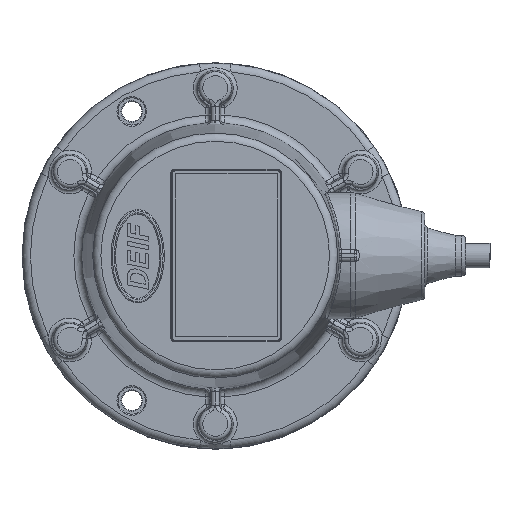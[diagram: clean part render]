
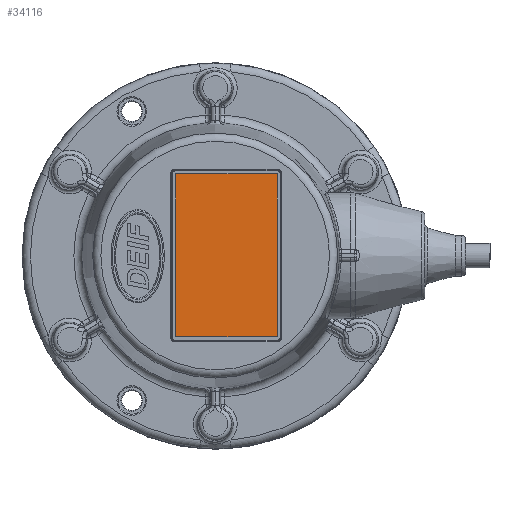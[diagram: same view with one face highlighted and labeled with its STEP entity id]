
A CAD part, top view. The second image highlights one B-rep face of the part: STEP entity #34116.
In plain terms, the highlighted planar face has unit normal (0, 0, 1) as drawn and (0, 1, 0) by its records, which use the part's own axes.
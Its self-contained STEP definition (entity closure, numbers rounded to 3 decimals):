
#4615=PLANE('',#36952);
#6013=FACE_OUTER_BOUND('',#8173,.T.);
#8173=EDGE_LOOP('',(#29168,#29169,#29170,#29171));
#10455=LINE('',#63080,#12439);
#10458=LINE('',#63086,#12442);
#10461=LINE('',#63092,#12445);
#10464=LINE('',#63096,#12448);
#12439=VECTOR('',#42355,10.);
#12442=VECTOR('',#42360,10.);
#12445=VECTOR('',#42365,10.);
#12448=VECTOR('',#42370,10.);
#15990=VERTEX_POINT('',#63077);
#15991=VERTEX_POINT('',#63079);
#15993=VERTEX_POINT('',#63085);
#15995=VERTEX_POINT('',#63091);
#20551=EDGE_CURVE('',#15991,#15990,#10455,.T.);
#20554=EDGE_CURVE('',#15993,#15991,#10458,.T.);
#20557=EDGE_CURVE('',#15995,#15993,#10461,.T.);
#20560=EDGE_CURVE('',#15990,#15995,#10464,.T.);
#29168=ORIENTED_EDGE('',*,*,#20560,.T.);
#29169=ORIENTED_EDGE('',*,*,#20557,.T.);
#29170=ORIENTED_EDGE('',*,*,#20554,.T.);
#29171=ORIENTED_EDGE('',*,*,#20551,.T.);
#34116=ADVANCED_FACE('',(#6013),#4615,.T.);
#36952=AXIS2_PLACEMENT_3D('',#63097,#42371,#42372);
#42355=DIRECTION('',(1.,0.,0.));
#42360=DIRECTION('',(0.,0.,1.));
#42365=DIRECTION('',(-1.,0.,0.));
#42370=DIRECTION('',(0.,0.,-1.));
#42371=DIRECTION('center_axis',(0.,1.,0.));
#42372=DIRECTION('ref_axis',(0.,0.,1.));
#63077=CARTESIAN_POINT('',(20.,0.05,12.5));
#63079=CARTESIAN_POINT('',(-20.,0.05,12.5));
#63080=CARTESIAN_POINT('',(-20.,0.05,12.5));
#63085=CARTESIAN_POINT('',(-20.,0.05,-12.5));
#63086=CARTESIAN_POINT('',(-20.,0.05,-12.5));
#63091=CARTESIAN_POINT('',(20.,0.05,-12.5));
#63092=CARTESIAN_POINT('',(20.,0.05,-12.5));
#63096=CARTESIAN_POINT('',(20.,0.05,12.5));
#63097=CARTESIAN_POINT('Origin',(0.,0.05,0.));
